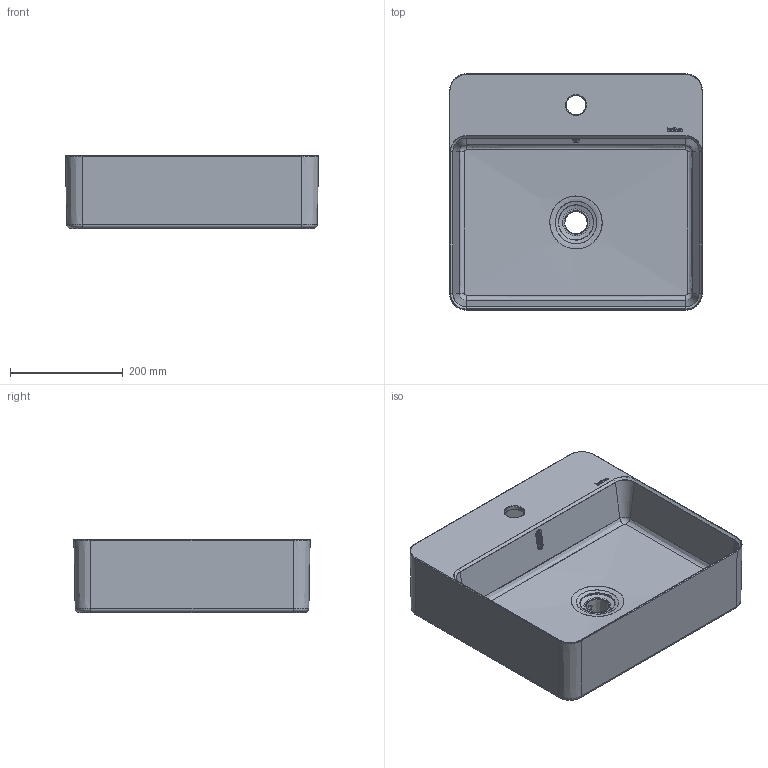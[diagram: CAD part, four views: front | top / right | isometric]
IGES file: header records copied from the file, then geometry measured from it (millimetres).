
Global section: file name: C:\Users\User\Desktop\Lavabos 3D\4126 Santo; native system: Rhinoceros ( Feb 26 2015 ); preprocessor: Trout Lake IGES 012 Feb 26 2015; date: 191022.045357; units: millimetre
Bounding box: 449.96 x 419.96 x 130.13 mm (x, y, z)
Surface area: 809420.5 mm2 (no closed solid volume)
Topology: 0 solids, 0 shells, 219 faces, 1472 edges, 1457 vertices
Faces by surface type: bspline 219
